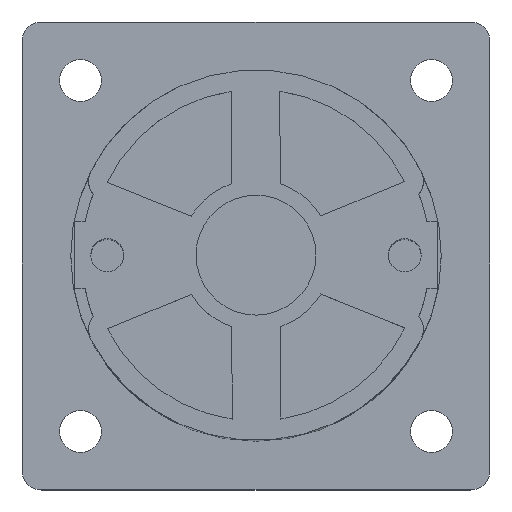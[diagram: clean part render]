
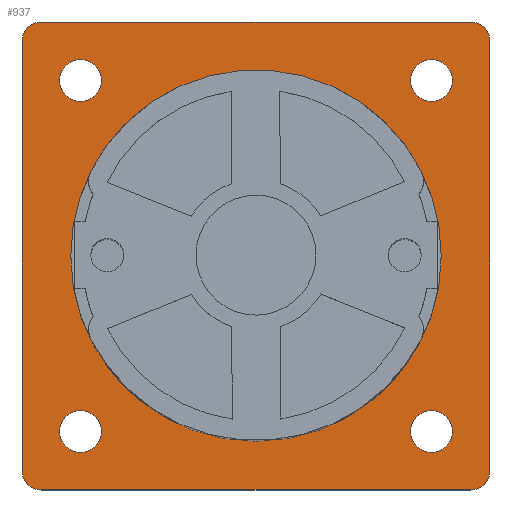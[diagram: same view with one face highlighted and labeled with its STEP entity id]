
A CAD part, top view. The second image highlights one B-rep face of the part: STEP entity #937.
In plain terms, the highlighted planar face has unit normal (0, 0, 1).
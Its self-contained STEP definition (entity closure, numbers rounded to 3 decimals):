
#277=FACE_BOUND('',#2379,.T.);
#278=FACE_BOUND('',#2380,.T.);
#279=FACE_BOUND('',#2381,.T.);
#280=FACE_BOUND('',#2382,.T.);
#281=FACE_BOUND('',#2383,.T.);
#282=FACE_BOUND('',#2384,.T.);
#442=CIRCLE('',#9662,2.15);
#446=CIRCLE('',#9669,2.15);
#450=CIRCLE('',#9676,2.15);
#454=CIRCLE('',#9683,2.15);
#467=CIRCLE('',#9709,19.);
#512=CIRCLE('',#9804,2.);
#513=CIRCLE('',#9806,2.);
#514=CIRCLE('',#9808,2.);
#515=CIRCLE('',#9810,2.);
#937=ADVANCED_FACE('',(#277,#278,#279,#280,#281,#282),#1422,.F.);
#1422=PLANE('',#9817);
#2379=EDGE_LOOP('',(#3502,#3503,#3504,#3505,#3506,#3507,#3508,#3509));
#2380=EDGE_LOOP('',(#3510));
#2381=EDGE_LOOP('',(#3511));
#2382=EDGE_LOOP('',(#3512));
#2383=EDGE_LOOP('',(#3513));
#2384=EDGE_LOOP('',(#3514));
#3502=ORIENTED_EDGE('',*,*,#6838,.F.);
#3503=ORIENTED_EDGE('',*,*,#6825,.F.);
#3504=ORIENTED_EDGE('',*,*,#6835,.F.);
#3505=ORIENTED_EDGE('',*,*,#6828,.F.);
#3506=ORIENTED_EDGE('',*,*,#6836,.F.);
#3507=ORIENTED_EDGE('',*,*,#6831,.F.);
#3508=ORIENTED_EDGE('',*,*,#6837,.F.);
#3509=ORIENTED_EDGE('',*,*,#6834,.F.);
#3510=ORIENTED_EDGE('',*,*,#6694,.F.);
#3511=ORIENTED_EDGE('',*,*,#6641,.T.);
#3512=ORIENTED_EDGE('',*,*,#6637,.T.);
#3513=ORIENTED_EDGE('',*,*,#6633,.T.);
#3514=ORIENTED_EDGE('',*,*,#6629,.T.);
#5672=VERTEX_POINT('',#13425);
#5676=VERTEX_POINT('',#13436);
#5680=VERTEX_POINT('',#13447);
#5684=VERTEX_POINT('',#13458);
#5733=VERTEX_POINT('',#13561);
#5822=VERTEX_POINT('',#13829);
#5823=VERTEX_POINT('',#13831);
#5824=VERTEX_POINT('',#13835);
#5825=VERTEX_POINT('',#13837);
#5826=VERTEX_POINT('',#13841);
#5827=VERTEX_POINT('',#13843);
#5828=VERTEX_POINT('',#13847);
#5829=VERTEX_POINT('',#13849);
#6629=EDGE_CURVE('',#5672,#5672,#442,.T.);
#6633=EDGE_CURVE('',#5676,#5676,#446,.T.);
#6637=EDGE_CURVE('',#5680,#5680,#450,.T.);
#6641=EDGE_CURVE('',#5684,#5684,#454,.T.);
#6694=EDGE_CURVE('',#5733,#5733,#467,.T.);
#6825=EDGE_CURVE('',#5823,#5822,#512,.T.);
#6828=EDGE_CURVE('',#5825,#5824,#513,.T.);
#6831=EDGE_CURVE('',#5827,#5826,#514,.T.);
#6834=EDGE_CURVE('',#5829,#5828,#515,.T.);
#6835=EDGE_CURVE('',#5824,#5823,#8032,.T.);
#6836=EDGE_CURVE('',#5826,#5825,#8033,.T.);
#6837=EDGE_CURVE('',#5828,#5827,#8034,.T.);
#6838=EDGE_CURVE('',#5822,#5829,#8035,.T.);
#8032=LINE('',#13852,#8909);
#8033=LINE('',#13854,#8910);
#8034=LINE('',#13856,#8911);
#8035=LINE('',#13858,#8912);
#8909=VECTOR('',#11204,1.);
#8910=VECTOR('',#11207,1.);
#8911=VECTOR('',#11210,1.);
#8912=VECTOR('',#11213,1.);
#9662=AXIS2_PLACEMENT_3D('',#13424,#10784,#10785);
#9669=AXIS2_PLACEMENT_3D('',#13435,#10798,#10799);
#9676=AXIS2_PLACEMENT_3D('',#13446,#10812,#10813);
#9683=AXIS2_PLACEMENT_3D('',#13457,#10826,#10827);
#9709=AXIS2_PLACEMENT_3D('',#13560,#10906,#10907);
#9804=AXIS2_PLACEMENT_3D('',#13832,#11182,#11183);
#9806=AXIS2_PLACEMENT_3D('',#13838,#11188,#11189);
#9808=AXIS2_PLACEMENT_3D('',#13844,#11194,#11195);
#9810=AXIS2_PLACEMENT_3D('',#13850,#11200,#11201);
#9817=AXIS2_PLACEMENT_3D('',#13861,#11218,#11219);
#10784=DIRECTION('',(0.,0.,-1.));
#10785=DIRECTION('',(-1.,0.,0.));
#10798=DIRECTION('',(0.,0.,-1.));
#10799=DIRECTION('',(-1.,0.,0.));
#10812=DIRECTION('',(0.,0.,-1.));
#10813=DIRECTION('',(-1.,0.,0.));
#10826=DIRECTION('',(0.,0.,-1.));
#10827=DIRECTION('',(-1.,0.,0.));
#10906=DIRECTION('',(0.,0.,1.));
#10907=DIRECTION('',(-1.,0.,0.));
#11182=DIRECTION('',(0.,0.,-1.));
#11183=DIRECTION('',(1.,0.,0.));
#11188=DIRECTION('',(0.,0.,-1.));
#11189=DIRECTION('',(1.,0.,0.));
#11194=DIRECTION('',(0.,0.,-1.));
#11195=DIRECTION('',(1.,0.,0.));
#11200=DIRECTION('',(0.,0.,-1.));
#11201=DIRECTION('',(1.,0.,0.));
#11204=DIRECTION('',(0.,-1.,0.));
#11207=DIRECTION('',(1.,0.,0.));
#11210=DIRECTION('',(0.,1.,0.));
#11213=DIRECTION('',(-1.,0.,0.));
#11218=DIRECTION('',(0.,0.,-1.));
#11219=DIRECTION('',(-1.,0.,0.));
#13424=CARTESIAN_POINT('',(18.,-18.,2.5));
#13425=CARTESIAN_POINT('',(15.85,-18.,2.5));
#13435=CARTESIAN_POINT('',(18.,18.,2.5));
#13436=CARTESIAN_POINT('',(15.85,18.,2.5));
#13446=CARTESIAN_POINT('',(-18.,18.,2.5));
#13447=CARTESIAN_POINT('',(-20.15,18.,2.5));
#13457=CARTESIAN_POINT('',(-18.,-18.,2.5));
#13458=CARTESIAN_POINT('',(-20.15,-18.,2.5));
#13560=CARTESIAN_POINT('',(0.,0.,2.5));
#13561=CARTESIAN_POINT('',(-19.,0.,2.5));
#13829=CARTESIAN_POINT('',(22.,-24.,2.5));
#13831=CARTESIAN_POINT('',(24.,-22.,2.5));
#13832=CARTESIAN_POINT('',(22.,-22.,2.5));
#13835=CARTESIAN_POINT('',(24.,22.,2.5));
#13837=CARTESIAN_POINT('',(22.,24.,2.5));
#13838=CARTESIAN_POINT('',(22.,22.,2.5));
#13841=CARTESIAN_POINT('',(-22.,24.,2.5));
#13843=CARTESIAN_POINT('',(-24.,22.,2.5));
#13844=CARTESIAN_POINT('',(-22.,22.,2.5));
#13847=CARTESIAN_POINT('',(-24.,-22.,2.5));
#13849=CARTESIAN_POINT('',(-22.,-24.,2.5));
#13850=CARTESIAN_POINT('',(-22.,-22.,2.5));
#13852=CARTESIAN_POINT('',(24.,22.,2.5));
#13854=CARTESIAN_POINT('',(-22.,24.,2.5));
#13856=CARTESIAN_POINT('',(-24.,-22.,2.5));
#13858=CARTESIAN_POINT('',(22.,-24.,2.5));
#13861=CARTESIAN_POINT('',(-22.,-22.,2.5));
